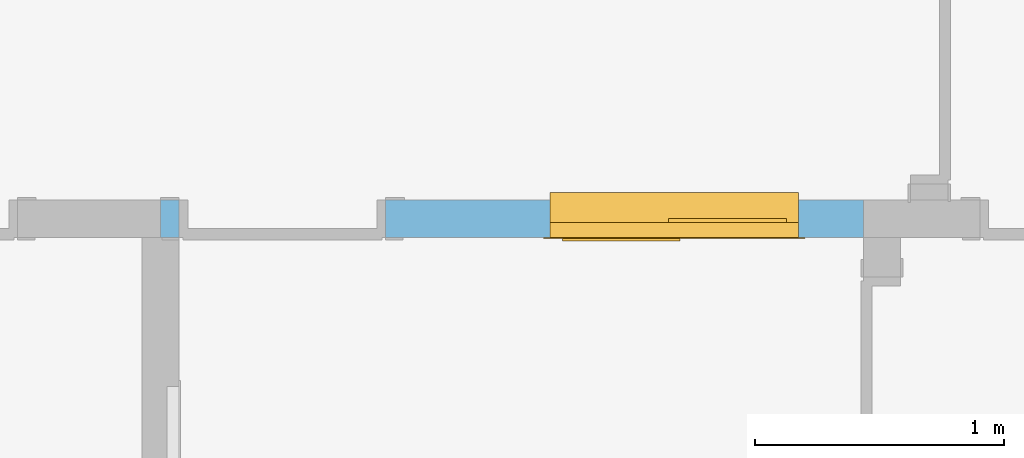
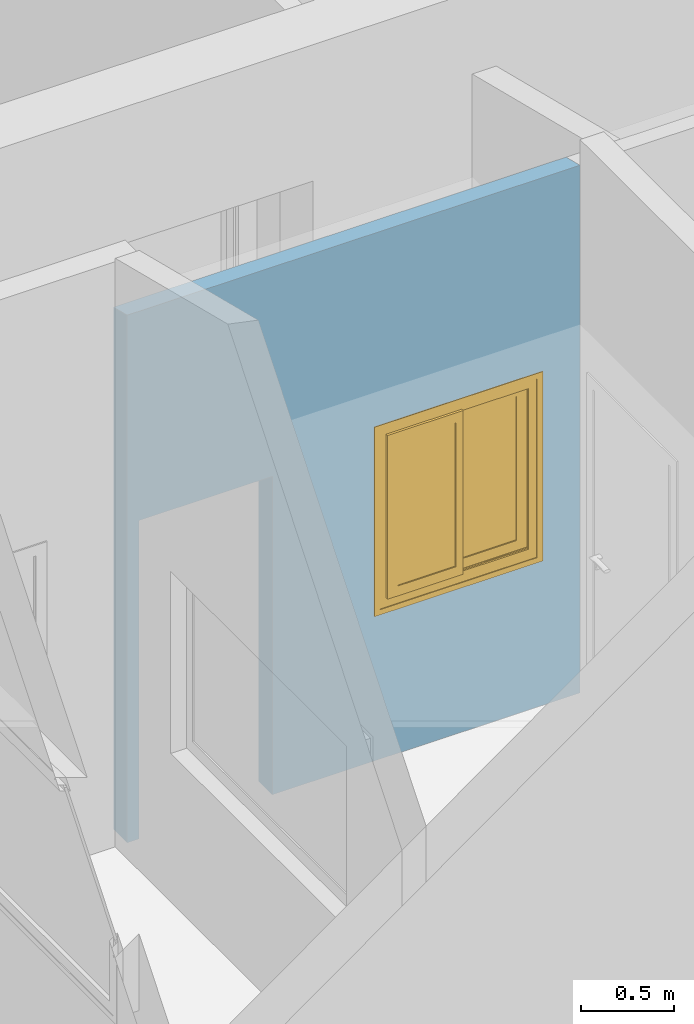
# One storey, part 134 of 153: 1 window, 2 openings, plus 1 element that does not belong to this part.
"""IFC4 building model written with IfcOpenShell, lengths in metres."""

from ifc_helpers import new_model, entity, si_unit, converted_unit, derived_unit, direction, frame, origin, place, context, subcontext, project, spatial, indexed_curve, outline, extrude, polygons, source, transform, mapped, material, constituent, constituent_set, type_object, type_shapes, element, fill, save


model = new_model("IFC4")

# Units and contexts
model_context = context("Model", 3, precision=1e-05, world=origin(), true_north=direction((6.123031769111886e-17, 1.0)))
body_context = subcontext(model_context, "Body", "Model", "MODEL_VIEW")
ifc_project = project(units=[si_unit("LENGTHUNIT", "METRE"), si_unit("AREAUNIT", "SQUARE_METRE"), si_unit("VOLUMEUNIT", "CUBIC_METRE"), converted_unit("PLANEANGLEUNIT", "DEGREE", entity("IfcRatioMeasure", 0.017453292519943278), si_unit("PLANEANGLEUNIT", "RADIAN"), dimensions=[0, 0, 0, 0, 0, 0, 0]), si_unit("MASSUNIT", "GRAM", prefix="KILO"), derived_unit("MASSDENSITYUNIT", [(si_unit("MASSUNIT", "GRAM", prefix="KILO"), 1), (si_unit("LENGTHUNIT", "METRE"), -3)]), derived_unit("MOMENTOFINERTIAUNIT", [(si_unit("LENGTHUNIT", "METRE"), 4)]), si_unit("TIMEUNIT", "SECOND"), si_unit("FREQUENCYUNIT", "HERTZ"), si_unit("THERMODYNAMICTEMPERATUREUNIT", "DEGREE_CELSIUS"), derived_unit("THERMALTRANSMITTANCEUNIT", [(si_unit("MASSUNIT", "GRAM", prefix="KILO"), 1), (si_unit("THERMODYNAMICTEMPERATUREUNIT", "KELVIN"), -1), (si_unit("TIMEUNIT", "SECOND"), -3)]), derived_unit("VOLUMETRICFLOWRATEUNIT", [(si_unit("LENGTHUNIT", "METRE"), 3), (si_unit("TIMEUNIT", "SECOND"), -1)]), derived_unit("MASSFLOWRATEUNIT", [(si_unit("MASSUNIT", "GRAM", prefix="KILO"), 1), (si_unit("TIMEUNIT", "SECOND"), -1)]), derived_unit("ROTATIONALFREQUENCYUNIT", [(si_unit("TIMEUNIT", "SECOND"), -1)]), si_unit("ELECTRICCURRENTUNIT", "AMPERE"), si_unit("ELECTRICVOLTAGEUNIT", "VOLT"), si_unit("POWERUNIT", "WATT"), si_unit("FORCEUNIT", "NEWTON", prefix="KILO"), si_unit("ILLUMINANCEUNIT", "LUX"), si_unit("LUMINOUSFLUXUNIT", "LUMEN"), si_unit("LUMINOUSINTENSITYUNIT", "CANDELA"), derived_unit("USERDEFINED", [(si_unit("MASSUNIT", "GRAM", prefix="KILO"), -1), (si_unit("LENGTHUNIT", "METRE"), -2), (si_unit("TIMEUNIT", "SECOND"), 3), (si_unit("LUMINOUSFLUXUNIT", "LUMEN"), 1)]), derived_unit("SOUNDPOWERUNIT", [(si_unit("MASSUNIT", "GRAM", prefix="KILO"), 1), (si_unit("LENGTHUNIT", "METRE"), 2), (si_unit("TIMEUNIT", "SECOND"), -3)]), derived_unit("SOUNDPRESSUREUNIT", [(si_unit("MASSUNIT", "GRAM", prefix="KILO"), 1), (si_unit("LENGTHUNIT", "METRE"), -1), (si_unit("TIMEUNIT", "SECOND"), -2)]), derived_unit("LINEARVELOCITYUNIT", [(si_unit("LENGTHUNIT", "METRE"), 1), (si_unit("TIMEUNIT", "SECOND"), -1)]), si_unit("PRESSUREUNIT", "PASCAL"), derived_unit("USERDEFINED", [(si_unit("LENGTHUNIT", "METRE"), -2), (si_unit("MASSUNIT", "GRAM", prefix="KILO"), 1), (si_unit("TIMEUNIT", "SECOND"), -2)]), derived_unit("LINEARFORCEUNIT", [(si_unit("MASSUNIT", "GRAM", prefix="KILO"), 1), (si_unit("LENGTHUNIT", "METRE"), 1), (si_unit("TIMEUNIT", "SECOND"), -2), (si_unit("LENGTHUNIT", "METRE"), -1)]), derived_unit("PLANARFORCEUNIT", [(si_unit("MASSUNIT", "GRAM", prefix="KILO"), 1), (si_unit("LENGTHUNIT", "METRE"), 1), (si_unit("TIMEUNIT", "SECOND"), -2), (si_unit("LENGTHUNIT", "METRE"), -2)])], contexts=[model_context])

# Site, building, storey
site_placement = place(None, origin())
site = spatial("IfcSite", under=ifc_project, at=site_placement, Name="Superficie", CompositionType="ELEMENT")
building_placement = place(site_placement, origin())
building = spatial("IfcBuilding", under=site, at=building_placement, CompositionType="ELEMENT")
storey_placement = place(building_placement, frame((0.0, 0.0, 3.5999999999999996)))
storey = spatial("IfcBuildingStorey", under=building, at=storey_placement, Name="Nivel 1", CompositionType="ELEMENT", Elevation=3.5999999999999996)

# Wall, openings, window
ifc_material_1 = material(Name="Muro por defecto", Category="Varios")
wall_type = type_object("IfcWallType", Name="Muro básico:Por defecto - 15 cm 2", PredefinedType="STANDARD")
wall_placement = place(storey_placement, frame((1.5210019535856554, 8.950829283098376, 0.5199999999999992), z_axis=(0.0, 0.0, 1.0), x_axis=(-1.0, 0.0, 0.0)))
wall = element("IfcWall", 1, at=wall_placement, inside=storey, type_object=wall_type, material=ifc_material_1, Name="Muro básico:Por defecto - 15 cm 2", ObjectType="Muro básico:Por defecto - 15 cm 2", PredefinedType="NOTDEFINED", context=body_context, shape_type="Tessellation", body=[
    polygons([(1.2599999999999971, -0.07500000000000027, 0.9800000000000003), (0.25999999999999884, -0.07499999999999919, 0.9800000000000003), (0.25999999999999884, -0.07499999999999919, 2.179999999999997), (1.2599999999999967, -0.07500000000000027, 2.179999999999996), (2.8249999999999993, -0.07500000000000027, 5.414335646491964e-16), (2.8249999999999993, -0.07500000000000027, 3.44297907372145), (3.130326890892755e-16, -0.07499999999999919, 3.4429790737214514), (3.130326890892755e-16, -0.07499999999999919, 5.414335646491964e-16), (1.9199999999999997, -0.07500000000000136, 5.414335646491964e-16), (1.9200000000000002, -0.07500000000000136, 2.099999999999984), (2.749999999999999, -0.07499999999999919, 2.099999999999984), (2.7499999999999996, -0.07499999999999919, 5.414335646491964e-16), (1.2599999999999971, 0.07499999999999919, 0.9800000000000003), (1.2599999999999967, 0.07499999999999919, 2.179999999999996), (0.2599999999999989, 0.07500000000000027, 2.179999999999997), (0.2599999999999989, 0.07500000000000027, 0.9800000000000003), (2.8249999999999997, 0.07500000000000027, 3.4801691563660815), (2.8249999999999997, 0.07500000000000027, 5.414335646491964e-16), (2.7499999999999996, 0.07500000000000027, 5.414335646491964e-16), (2.7499999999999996, 0.07500000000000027, 2.099999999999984), (1.9200000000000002, 0.07499999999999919, 2.099999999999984), (1.9199999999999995, 0.07499999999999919, 5.414335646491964e-16), (3.2287693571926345e-16, 0.07500000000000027, 5.414335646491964e-16), (5.2160153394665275e-17, 0.07500000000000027, 3.4801691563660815)], [[[5, 6, 7, 8, 9, 10, 11, 12], [1, 2, 3, 4]], [[17, 18, 19, 20, 21, 22, 23, 24], [13, 14, 15, 16]], [[6, 5, 18, 17]], [[8, 7, 24, 23]], [[11, 20, 19, 12]], [[20, 11, 10, 21]], [[21, 10, 9, 22]], [[8, 23, 22, 9]], [[14, 13, 1, 4]], [[15, 14, 4, 3]], [[16, 15, 3, 2]], [[13, 16, 2, 1]], [[7, 6, 17, 24]], [[18, 5, 12, 19]]], closed=True),
])
opening_1_placement = place(wall_placement, frame((1.9199999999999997, -0.07500000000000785, 0.0)))
element("IfcOpeningElement", 2, at=opening_1_placement, cuts=wall, Name="Puerta de 1 hoja:83 x 210 cm 3:1", PredefinedType="OPENING", context=body_context, shape_type="SweptSolid", body=[
    extrude(outline(indexed_curve([(0.0, 0.829999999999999), (0.0, 0.0), (2.099999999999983, 0.0), (2.099999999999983, 0.829999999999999), (0.0, 0.829999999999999)], self_intersect=False)), frame((0.0, 0.0, 0.0), z_axis=(0.0, 1.0, 0.0), x_axis=(0.0, 0.0, 1.0)), (0.0, 0.0, 1.0), 0.14999999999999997),
])
opening_2_placement = place(wall_placement, frame((1.2599999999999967, 0.07499999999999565, 0.9800000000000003)))
opening_2 = element("IfcOpeningElement", 3, at=opening_2_placement, cuts=wall, Name="Ventana corredera de 2 hojas 2:1600 x 1600mm:1", PredefinedType="OPENING", context=body_context, shape_type="SweptSolid", body=[
    extrude(outline(indexed_curve([(0.0, 2.7255710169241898e-33), (1.1999999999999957, 2.7255710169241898e-33), (1.1999999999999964, 0.9999999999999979), (0.0, 0.9999999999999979), (0.0, 2.7255710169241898e-33)], self_intersect=False)), frame((0.0, 0.0, 0.0), z_axis=(0.0, -1.0, 0.0), x_axis=(0.0, 0.0, 1.0)), (0.0, 0.0, 1.0), 0.14999999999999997),
])
ifc_material_2 = material(Name="Madera - Castaño", Category="Madera")
ifc_constituent_1 = constituent(ifc_material_2, Name="Madera - Castaño", Category="Madera")
ifc_material_3 = material(Name="Vidrio", Category="Vidrio")
ifc_constituent_2 = constituent(ifc_material_3, Name="Vidrio", Category="Vidrio")
ifc_constituent_set_1 = constituent_set(constituents=[ifc_constituent_1, ifc_constituent_2], Name="MaterialConstituentSet")
ifc_constituent_3 = constituent(ifc_material_2, Name="Alféizar/dintel", Category="Madera")
ifc_constituent_4 = constituent(ifc_material_2, Name="Marco/montante", Category="Madera")
ifc_constituent_5 = constituent(ifc_material_3, Name="Cristal", Category="Vidrio")
ifc_constituent_6 = constituent(ifc_material_2, Name="Cubrejuntas", Category="Madera")
ifc_constituent_set_2 = constituent_set(constituents=[ifc_constituent_3, ifc_constituent_4, ifc_constituent_5, ifc_constituent_6], Name="MaterialConstituentSet")
window_type = type_object("IfcWindowType", Name="Ventana corredera de 2 hojas 2:1600 x 1600mm", PartitioningType="NOTDEFINED", PredefinedType="WINDOW", material=ifc_constituent_set_2)
shared_shape = source(origin(), body_context, "Body", "Tessellation", [
    polygons([(0.9999999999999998, 0.17999999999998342, 0.0199999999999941), (0.999999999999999, 0.059999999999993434, 0.0199999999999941), (0.999999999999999, 0.059999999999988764, -7.986145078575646e-15), (0.9999999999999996, 0.14999999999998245, -7.986145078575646e-15), (0.9999999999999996, 0.14999999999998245, 0.009999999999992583), (0.9999999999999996, 0.15999999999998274, 0.009999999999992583), (0.9999999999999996, 0.15999999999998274, -7.986145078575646e-15), (0.9999999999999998, 0.17999999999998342, -7.986145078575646e-15), (2.0303758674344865e-16, 0.17999999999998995, 0.0199999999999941), (2.0303758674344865e-16, 0.17999999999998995, -7.986145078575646e-15), (6.767919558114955e-17, 0.1599999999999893, -7.986145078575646e-15), (6.767919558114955e-17, 0.1599999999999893, 0.009999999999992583), (6.767919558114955e-17, 0.14999999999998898, 0.009999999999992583), (6.767919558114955e-17, 0.14999999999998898, -7.986145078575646e-15), (-6.09112760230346e-16, 0.05999999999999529, -7.986145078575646e-15), (-6.09112760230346e-16, 0.05999999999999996, 0.0199999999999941)], [[[1, 2, 3, 4, 5, 6, 7, 8]], [[9, 10, 11, 12, 13, 14, 15, 16]], [[8, 10, 9, 1]], [[7, 11, 10, 8]], [[6, 12, 11, 7]], [[5, 13, 12, 6]], [[4, 14, 13, 5]], [[3, 15, 14, 4]], [[2, 16, 15, 3]], [[1, 9, 16, 2]]], closed=True),
    polygons([(0.9999999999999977, 0.059999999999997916, 1.1999999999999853), (0.9999999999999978, 8.459899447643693e-18, 1.199999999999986), (0.9999999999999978, 8.459899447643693e-18, -3.2486013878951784e-15), (0.9999999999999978, 0.06000000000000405, -3.1132429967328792e-15), (-6.767919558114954e-16, 8.459899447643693e-18, 1.199999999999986), (-6.09112760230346e-16, 8.459899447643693e-18, -3.2486013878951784e-15), (0.060001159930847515, -1.8611778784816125e-16, 1.1399988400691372), (0.9399988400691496, -2.0811352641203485e-15, 1.1399988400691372), (0.9399988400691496, -2.0811352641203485e-15, 0.08000115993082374), (0.060001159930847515, -1.8611778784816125e-16, 0.08000115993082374), (-6.767919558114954e-16, 0.060000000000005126, -3.1132429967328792e-15), (-4.737543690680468e-16, 0.060000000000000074, 1.1999999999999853), (0.9399988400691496, 0.059999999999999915, 1.1399988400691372), (0.060001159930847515, 0.059999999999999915, 1.1399988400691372), (0.060001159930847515, 0.059999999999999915, 0.08000115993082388), (0.9399988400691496, 0.059999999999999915, 0.08000115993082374), (0.9399988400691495, 0.049999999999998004, 1.1399988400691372), (0.9399988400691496, 0.049999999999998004, 0.08000115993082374), (0.06000115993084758, 0.049999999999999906, 0.08000115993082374), (0.060001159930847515, 0.049999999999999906, 1.1399988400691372), (0.9649988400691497, 0.04999999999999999, 1.1649988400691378), (0.03500115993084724, 0.04999999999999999, 1.1649988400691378), (0.035001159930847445, 0.04999999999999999, 0.05500115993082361), (0.9649988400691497, 0.04999999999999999, 0.05500115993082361), (0.9649988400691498, 0.009999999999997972, 1.1649988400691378), (0.9649988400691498, 0.009999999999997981, 0.055001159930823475), (0.03500115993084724, 0.009999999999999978, 0.055001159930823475), (0.03500115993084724, 0.009999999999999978, 1.1649988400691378), (0.9399988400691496, 0.00999999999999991, 1.1399988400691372), (0.060001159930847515, 0.00999999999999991, 1.1399988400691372), (0.060001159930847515, 0.00999999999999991, 0.08000115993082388), (0.9399988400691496, 0.00999999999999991, 0.08000115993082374)], [[[1, 2, 3, 4]], [[3, 2, 5, 6], [7, 8, 9, 10]], [[4, 3, 6, 11]], [[11, 12, 1, 4], [13, 14, 15, 16]], [[17, 13, 16, 18]], [[18, 16, 15, 19]], [[21, 22, 23, 24], [20, 17, 18, 19]], [[25, 21, 24, 26]], [[26, 24, 23, 27]], [[28, 25, 26, 27], [29, 30, 31, 32]], [[8, 29, 32, 9]], [[9, 32, 31, 10]], [[14, 20, 19, 15]], [[22, 28, 27, 23]], [[30, 7, 10, 31]], [[5, 12, 11, 6]], [[12, 5, 2, 1]], [[20, 14, 13, 17]], [[28, 22, 21, 25]], [[7, 30, 29, 8]]], closed=True),
    polygons([(0.49249999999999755, 0.017000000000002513, 0.12000115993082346), (0.49249999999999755, -0.006999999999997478, 0.12000115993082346), (0.10000115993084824, -0.006999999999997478, 0.12000115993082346), (0.10000115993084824, 0.017000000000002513, 0.12000115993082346), (0.49249999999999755, 0.017000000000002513, 1.0999988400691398), (0.49249999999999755, -0.006999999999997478, 1.0999988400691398), (0.10000115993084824, -0.006999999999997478, 1.0999988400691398), (0.10000115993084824, 0.017000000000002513, 1.0999988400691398)], [[[1, 2, 3, 4]], [[5, 6, 2, 1]], [[6, 7, 3, 2]], [[7, 8, 4, 3]], [[8, 5, 1, 4]], [[5, 8, 7, 6]]], closed=True),
    polygons([(0.899998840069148, 0.06700000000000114, 1.0999988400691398), (0.899998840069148, 0.04300000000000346, 1.0999988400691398), (0.899998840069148, 0.04300000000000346, 0.12000115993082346), (0.899998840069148, 0.06700000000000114, 0.12000115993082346), (0.507499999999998, 0.04300000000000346, 1.0999988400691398), (0.507499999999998, 0.04300000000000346, 0.12000115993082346), (0.507499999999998, 0.06700000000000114, 1.0999988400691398), (0.507499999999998, 0.06700000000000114, 0.12000115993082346)], [[[1, 2, 3, 4]], [[2, 5, 6, 3]], [[5, 7, 8, 6]], [[7, 1, 4, 8]], [[1, 7, 5, 2]], [[4, 3, 6, 8]]], closed=True),
    polygons([(0.884998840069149, 0.07500000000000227, 0.13500115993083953), (0.8849988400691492, 0.07500000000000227, 1.0849988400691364), (0.5224999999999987, 0.07500000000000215, 1.0849988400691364), (0.5224999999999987, 0.07500000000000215, 0.13500115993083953), (0.4774999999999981, 0.0750000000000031, 1.1499988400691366), (0.949998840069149, 0.07500000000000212, 1.1499988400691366), (0.949998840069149, 0.07500000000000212, 0.07000115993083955), (0.4774999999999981, 0.0750000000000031, 0.07000115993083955), (0.9499988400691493, 0.06000000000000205, 1.1499988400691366), (0.949998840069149, 0.06000000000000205, 0.07000115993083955), (0.4774999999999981, 0.06000000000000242, 0.07000115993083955), (0.4774999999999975, 0.05000000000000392, 1.1499988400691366), (0.4774999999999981, 0.05000000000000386, 1.1299988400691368), (0.4774999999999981, 0.060000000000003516, 1.129998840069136), (0.4774999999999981, 0.060000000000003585, 1.1499988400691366), (0.4774999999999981, 0.060000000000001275, 0.09000115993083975), (0.4774999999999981, 0.050000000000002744, 0.09000115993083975), (0.4774999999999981, 0.05000000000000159, 0.07000115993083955), (0.4774999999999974, 0.027000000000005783, 0.07000115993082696), (0.47749999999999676, 0.027000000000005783, 1.1499988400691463), (0.8849988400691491, 0.06700000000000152, 0.13500115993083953), (0.8849988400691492, 0.06700000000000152, 1.0849988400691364), (0.5224999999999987, 0.06700000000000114, 1.0849988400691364), (0.5224999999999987, 0.06700000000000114, 0.13500115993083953), (0.929998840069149, 0.06000000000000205, 1.129998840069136), (0.9299988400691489, 0.05999999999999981, 0.09000115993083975), (0.929998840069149, 0.0500000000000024, 0.09000115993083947), (0.949998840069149, 0.05000000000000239, 1.1499988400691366), (0.949998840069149, 0.05000000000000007, 0.07000115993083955), (0.9299988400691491, 0.0500000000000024, 1.1299988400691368), (0.9499988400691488, 0.03500000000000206, 0.07000115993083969), (0.49999999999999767, 0.035000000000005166, 0.07000115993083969), (0.49999999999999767, 0.027000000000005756, 0.0700011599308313), (0.4999999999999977, 0.027000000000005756, 1.1499988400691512), (0.4999999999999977, 0.035000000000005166, 1.1499988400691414), (0.8849988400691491, 0.035000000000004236, 1.0849988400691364), (0.884998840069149, 0.03500000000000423, 0.13500115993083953), (0.5224999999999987, 0.03500000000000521, 0.13500115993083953), (0.5224999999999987, 0.03500000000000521, 1.0849988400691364), (0.9499988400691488, 0.03500000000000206, 1.1499988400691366), (0.8849988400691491, 0.04300000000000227, 1.0849988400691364), (0.8849988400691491, 0.04300000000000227, 0.13500115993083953), (0.5224999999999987, 0.04300000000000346, 0.13500115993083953), (0.5224999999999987, 0.04300000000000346, 1.0849988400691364), (0.9049988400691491, 0.043000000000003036, 1.1049988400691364), (0.904998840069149, 0.043000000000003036, 0.1150011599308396), (0.502499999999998, 0.04300000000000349, 0.11500115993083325), (0.502499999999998, 0.04300000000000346, 1.1049988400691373), (0.9049988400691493, 0.0670000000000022, 1.1049988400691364), (0.9049988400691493, 0.06700000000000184, 0.11500115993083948), (0.502499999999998, 0.06700000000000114, 0.11500115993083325), (0.502499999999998, 0.06700000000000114, 1.1049988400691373)], [[[5, 6, 7, 8], [1, 2, 3, 4]], [[9, 10, 7, 6]], [[10, 11, 8, 7]], [[12, 13, 14, 15, 5, 8, 11, 16, 17, 18, 19, 20]], [[2, 1, 21, 22]], [[4, 3, 23, 24]], [[21, 1, 4, 24]], [[15, 14, 25, 26, 16, 11, 10, 9]], [[27, 17, 16, 26]], [[13, 12, 28, 29, 18, 17, 27, 30]], [[19, 18, 29, 31, 32, 33]], [[20, 19, 33, 34]], [[34, 33, 32, 35]], [[31, 40, 35, 32], [36, 37, 38, 39]], [[37, 36, 41, 42]], [[37, 42, 43, 38]], [[39, 38, 43, 44]], [[40, 31, 29, 28]], [[45, 46, 47, 48], [42, 41, 44, 43]], [[49, 50, 46, 45]], [[46, 50, 51, 47]], [[52, 48, 47, 51]], [[50, 49, 52, 51], [22, 21, 24, 23]], [[30, 27, 26, 25]], [[5, 15, 9, 6]], [[2, 22, 23, 3]], [[14, 13, 30, 25]], [[12, 20, 34, 35, 40, 28]], [[41, 36, 39, 44]], [[49, 45, 48, 52]]], closed=True),
    polygons([(0.5224999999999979, -0.014999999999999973, 0.07000115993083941), (0.5224999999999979, 2.537969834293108e-17, 0.07000115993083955), (0.5224999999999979, -4.2299497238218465e-17, 0.09000115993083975), (0.5224999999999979, 0.00999999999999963, 0.09000115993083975), (0.5224999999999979, 0.009999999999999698, 0.07000115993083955), (0.5224999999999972, 0.032999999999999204, 0.07000115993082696), (0.5224999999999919, 0.032999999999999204, 1.1499988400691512), (0.5224999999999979, 0.009999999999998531, 1.1499988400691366), (0.5224999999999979, 0.00999999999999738, 1.1299988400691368), (0.5224999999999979, -1.1420864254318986e-15, 1.1299988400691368), (0.5224999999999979, -2.292632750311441e-15, 1.1499988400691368), (0.5224999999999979, -0.015000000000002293, 1.1499988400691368), (0.050001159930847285, -0.014999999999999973, 0.07000115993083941), (0.050001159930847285, 2.537969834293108e-17, 0.07000115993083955), (0.050001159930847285, -2.292632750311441e-15, 1.1499988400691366), (0.07000115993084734, -4.2299497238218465e-17, 1.1299988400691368), (0.0700011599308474, -4.2299497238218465e-17, 0.09000115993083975), (0.0700011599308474, 0.00999999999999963, 0.09000115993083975), (0.07000115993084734, 0.00999999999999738, 1.1299988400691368), (0.050001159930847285, 0.009999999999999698, 1.1499988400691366), (0.05000115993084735, 0.009999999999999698, 0.07000115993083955), (0.05000115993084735, 0.02500000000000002, 0.07000115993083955), (0.4999999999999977, 0.025000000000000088, 0.07000115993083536), (0.4999999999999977, 0.032999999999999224, 0.07000115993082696), (0.49999999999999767, 0.032999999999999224, 1.1499988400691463), (0.050001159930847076, -0.014999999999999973, 1.1499988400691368), (0.1150011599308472, -0.015000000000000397, 0.1350011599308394), (0.1150011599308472, -0.015000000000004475, 1.0849988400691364), (0.4774999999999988, -0.015000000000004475, 1.0849988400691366), (0.4774999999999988, -0.015000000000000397, 0.1350011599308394), (0.050001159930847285, 0.02499999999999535, 1.1499988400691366), (0.49999999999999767, 0.024999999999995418, 1.1499988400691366), (0.11500115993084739, 0.024999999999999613, 1.0849988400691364), (0.11500115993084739, 0.024999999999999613, 0.13500115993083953), (0.4774999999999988, 0.024999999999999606, 0.13500115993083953), (0.4774999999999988, 0.024999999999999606, 1.0849988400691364), (0.11500115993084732, 0.016999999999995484, 1.0849988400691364), (0.11500115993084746, 0.016999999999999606, 0.13500115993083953), (0.4774999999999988, 0.016999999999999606, 0.13500115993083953), (0.4774999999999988, 0.016999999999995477, 1.0849988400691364), (0.1150011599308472, -0.007000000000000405, 0.1350011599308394), (0.1150011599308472, -0.007000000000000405, 1.0849988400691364), (0.4774999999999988, -0.007000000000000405, 1.0849988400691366), (0.4774999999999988, -0.007000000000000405, 0.1350011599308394), (0.09500115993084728, -0.00700000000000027, 0.11500115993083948), (0.09500115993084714, -0.007000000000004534, 1.1049988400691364), (0.4974999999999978, -0.007000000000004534, 1.1049988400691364), (0.4974999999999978, -0.00700000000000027, 0.11500115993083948), (0.0950011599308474, 0.01699999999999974, 0.1150011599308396), (0.0950011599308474, 0.01699999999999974, 1.1049988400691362), (0.4974999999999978, 0.01699999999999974, 0.1150011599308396), (0.4974999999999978, 0.016999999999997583, 1.1049988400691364)], [[[1, 2, 3, 4, 5, 6, 7, 8, 9, 10, 11, 12]], [[2, 1, 13, 14]], [[3, 2, 14, 15, 11, 10, 16, 17]], [[4, 3, 17, 18]], [[5, 4, 18, 19, 9, 8, 20, 21]], [[6, 5, 21, 22, 23, 24]], [[7, 6, 24, 25]], [[13, 1, 12, 26], [27, 28, 29, 30]], [[22, 31, 32, 23], [33, 34, 35, 36]], [[31, 22, 21, 20]], [[25, 24, 23, 32]], [[34, 33, 37, 38]], [[34, 38, 39, 35]], [[39, 40, 36, 35]], [[19, 18, 17, 16]], [[15, 14, 13, 26]], [[28, 27, 41, 42]], [[30, 29, 43, 44]], [[41, 27, 30, 44]], [[45, 46, 47, 48], [42, 41, 44, 43]], [[46, 45, 49, 50]], [[51, 48, 47, 52]], [[49, 45, 48, 51]], [[50, 49, 51, 52], [38, 37, 40, 39]], [[20, 8, 7, 25, 32, 31]], [[9, 19, 16, 10]], [[11, 15, 26, 12]], [[37, 33, 36, 40]], [[28, 42, 43, 29]], [[46, 50, 52, 47]]], closed=True),
    polygons([(0.9899999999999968, -0.004999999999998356, 1.1899999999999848), (0.9899999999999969, -7.529310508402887e-16, 1.1899999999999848), (0.9899999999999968, -7.529310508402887e-16, 0.010000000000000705), (0.9899999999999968, -0.004999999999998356, 0.010000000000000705), (1.0249999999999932, -8.036904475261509e-16, 1.2249999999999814), (1.024999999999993, -8.036904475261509e-16, -0.02499999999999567), (-0.02499999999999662, 2.529509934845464e-15, -0.02499999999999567), (-0.02499999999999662, 2.529509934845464e-15, 1.2249999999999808), (0.009999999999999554, 2.4195312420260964e-15, 1.189999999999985), (0.009999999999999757, 2.4195312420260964e-15, 0.010000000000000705), (0.009999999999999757, -0.004999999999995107, 0.010000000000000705), (0.009999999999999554, -0.004999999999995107, 1.1899999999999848), (-0.02499999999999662, -0.004999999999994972, 1.2249999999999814), (-0.02499999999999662, -0.004999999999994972, -0.02499999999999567), (1.024999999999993, -0.004999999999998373, -0.02499999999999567), (1.0249999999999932, -0.004999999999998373, 1.2249999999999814)], [[[1, 2, 3, 4]], [[5, 6, 7, 8], [9, 10, 3, 2]], [[4, 3, 10, 11]], [[13, 14, 15, 16], [1, 4, 11, 12]], [[5, 16, 15, 6]], [[6, 15, 14, 7]], [[11, 10, 9, 12]], [[7, 14, 13, 8]], [[12, 9, 2, 1]], [[8, 13, 16, 5]]], closed=True),
])
type_shapes(window_type, [shared_shape])
window_placement = place(opening_2_placement, frame((0.0, 0.0, 0.0), z_axis=(0.0, 0.0, 1.0), x_axis=(-1.0, 0.0, 0.0)))
window = element("IfcWindow", 4, at=window_placement, inside=storey, type_object=window_type, material=ifc_constituent_set_1, Name="Ventana corredera de 2 hojas 2:1600 x 1600mm", ObjectType="Ventana corredera de 2 hojas 2:1600 x 1600mm", OverallHeight=1.1999999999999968, OverallWidth=0.999999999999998, PartitioningType="NOTDEFINED", PredefinedType="WINDOW", context=body_context, shape_type="MappedRepresentation", body=[
    mapped(shared_shape, transform((0.0, 0.0, 0.0), scale=1.0)),
])
fill(opening_2, window)

save(model, "model.ifc")
